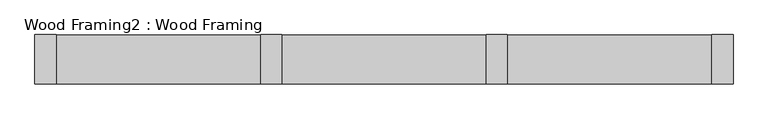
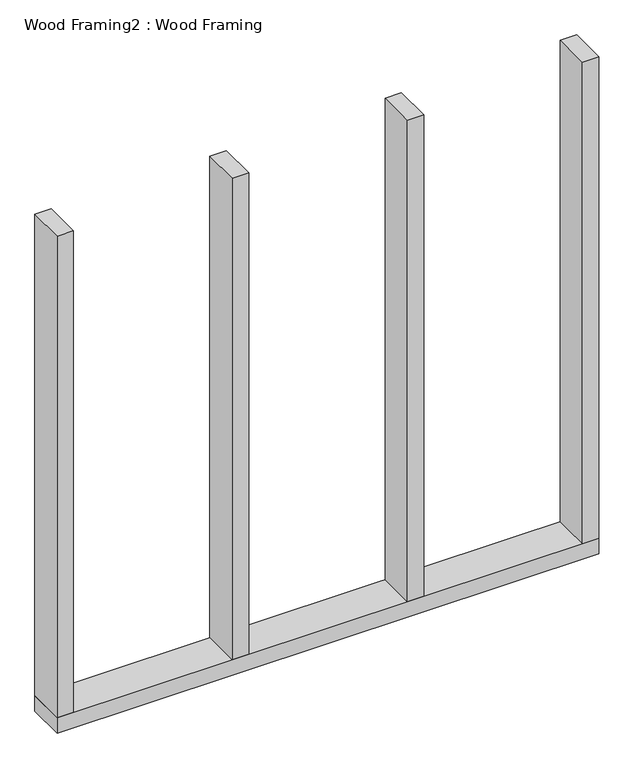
"""IFC4 building model written with IfcOpenShell, lengths in millimetres: proxy geometry, Wood Framing2 : Wood Framing."""

from ifc_helpers import new_model, si_unit, frame, origin, origin_with_axes, place, context, project, spatial, polyline, outline, extrude, source, transform, mapped, element, save


def wood_framing2_wood_framing_f1f590b3(model_context):
    return source(origin(), model_context, "Body", "SweptSolid", [
        extrude(outline(polyline([(995.5820282, 34793.6421435), (995.5820282, 34882.5421435), (1033.6820282, 34882.5421435), (1033.6820282, 34793.6421435), (995.5820282, 34793.6421435)])), frame((0.0, 0.0, 38.1), z_axis=(0.0, 0.0, 1.0), x_axis=(1.0, 0.0, 0.0)), (0.0, 0.0, 1.0), 1181.1),
        extrude(outline(polyline([(589.1820282, 34793.6421435), (589.1820282, 34882.5421435), (627.2820282, 34882.5421435), (627.2820282, 34793.6421435), (589.1820282, 34793.6421435)])), frame((0.0, 0.0, 38.1), z_axis=(0.0, 0.0, 1.0), x_axis=(1.0, 0.0, 0.0)), (0.0, 0.0, 1.0), 1181.1),
        extrude(outline(polyline([(182.7820282, 34793.6421435), (182.7820282, 34882.5421435), (220.8820282, 34882.5421435), (220.8820282, 34793.6421435), (182.7820282, 34793.6421435)])), frame((0.0, 0.0, 38.1), z_axis=(0.0, 0.0, 1.0), x_axis=(1.0, 0.0, 0.0)), (0.0, 0.0, 1.0), 1181.1),
        extrude(outline(polyline([(-223.6179718, 34793.6421435), (-223.6179718, 34882.5421435), (-185.5179718, 34882.5421435), (-185.5179718, 34793.6421435), (-223.6179718, 34793.6421435)])), frame((0.0, 0.0, 38.1), z_axis=(0.0, 0.0, 1.0), x_axis=(1.0, 0.0, 0.0)), (0.0, 0.0, 1.0), 1181.1),
        extrude(outline(polyline([(1033.6820282, 34882.5421435), (1033.6820282, 34793.6421435), (-223.6179718, 34793.6421435), (-223.6179718, 34882.5421435), (1033.6820282, 34882.5421435)])), origin_with_axes(), (0.0, 0.0, 1.0), 38.1),
    ])


if __name__ == "__main__":
    model = new_model("IFC4")
    model_context = context("Model", 3, world=origin())
    ifc_project = project(units=[si_unit("LENGTHUNIT", "METRE", prefix="MILLI")], contexts=[model_context])
    site = spatial("IfcSite", under=ifc_project)
    building = spatial("IfcBuilding", under=site)
    placement = place(None, origin())
    wood_framing2_wood_framing_shape = wood_framing2_wood_framing_f1f590b3(model_context)
    element("IfcBuildingElementProxy", 1, Name="Wood Framing2 : Wood Framing", ObjectType="Wood Framing2 : Wood Framing", at=placement, inside=building, context=model_context, shape_type="MappedRepresentation", body=[
        mapped(wood_framing2_wood_framing_shape, transform((0.0, 0.0, 0.0), x_axis=(1.0, 0.0, 0.0), y_axis=(0.0, 1.0, 0.0), z_axis=(0.0, 0.0, 1.0))),
    ])
    save(model, "model.ifc")
